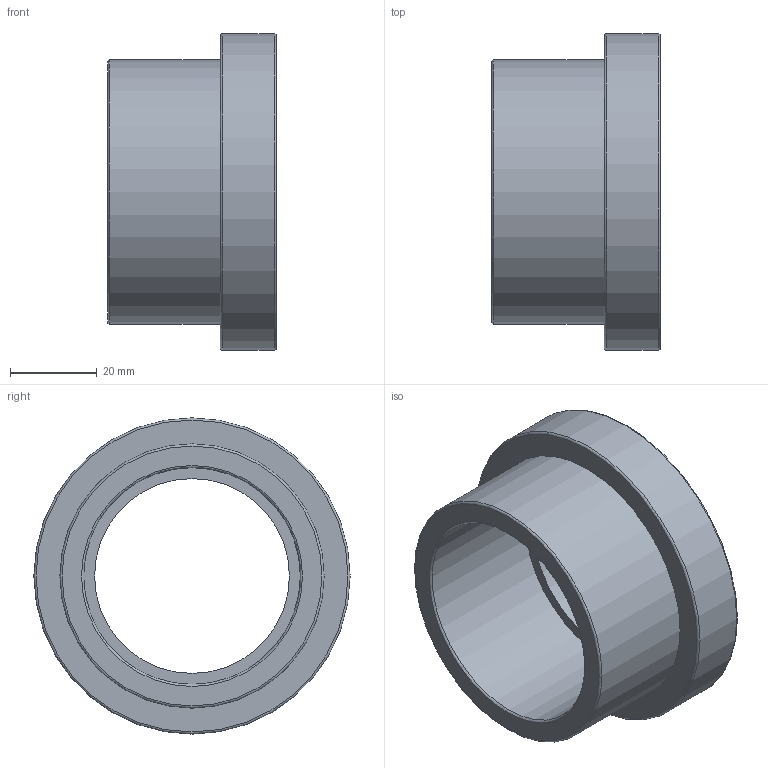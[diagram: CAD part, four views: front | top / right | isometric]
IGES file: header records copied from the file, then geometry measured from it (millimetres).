
Global section: file name: 055000050.ipt; native system: Autodesk Inventor 2015; preprocessor: unknown; author: KIM; date: 20171207.165709; units: millimetre
Bounding box: 39 x 73 x 73 mm (x, y, z)
Volume: 53715.4 mm3; surface area: 20237.2 mm2
Topology: 1 solids, 1 shells, 21 faces, 60 edges, 45 vertices
Faces by surface type: revolution 12, plane 6, cylinder 3
Full cylindrical faces by diameter (mm): 54.8 x1, 61 x1, 73 x1
